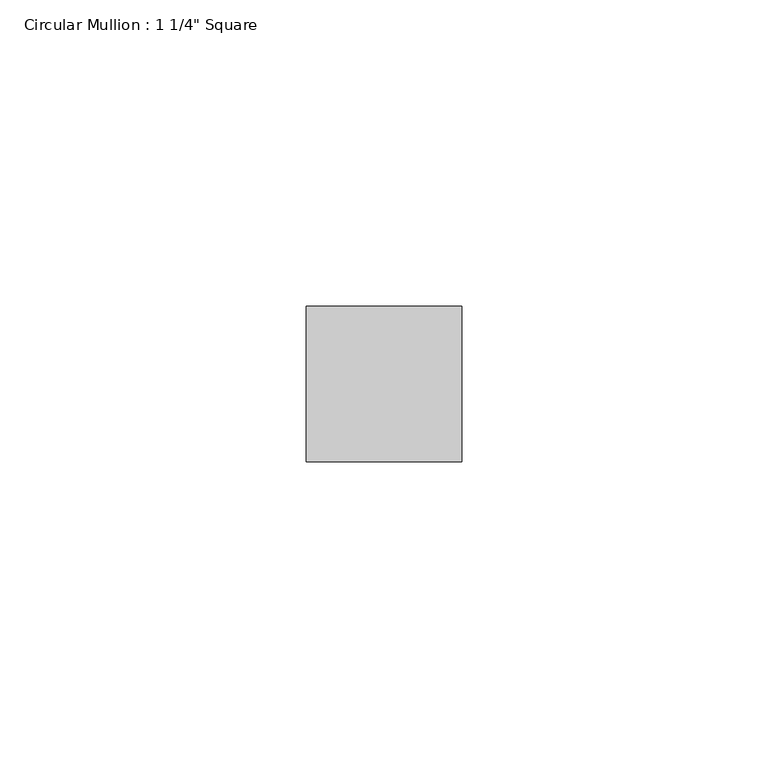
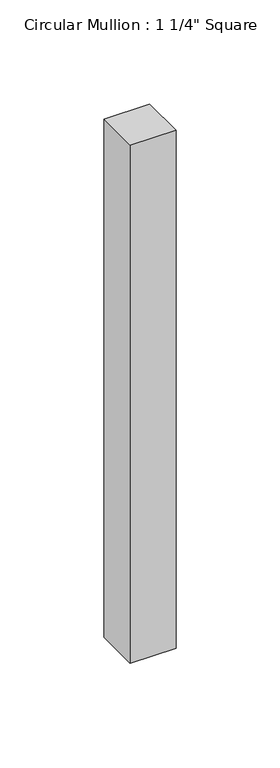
"""IFC4 building model written with IfcOpenShell, lengths in millimetres: member geometry."""

from ifc_helpers import new_model, si_unit, frame, origin, place, context, project, spatial, polyline, outline, extrude, source, transform, mapped, element, save


def member_2de5acac(model_context):
    return source(origin(), model_context, "Body", "SweptSolid", [
        extrude(outline(polyline([(12.7, 12.7), (12.7, -12.7), (-12.7, -12.7), (-12.7, 12.7), (12.7, 12.7)])), frame((0.0, 0.0, -304.3289943), z_axis=(0.0, 0.0, 1.0), x_axis=(1.0, 0.0, 0.0)), (0.0, 0.0, 1.0), 304.3289943),
    ])


if __name__ == "__main__":
    model = new_model("IFC4")
    model_context = context("Model", 3, world=origin())
    ifc_project = project(units=[si_unit("LENGTHUNIT", "METRE", prefix="MILLI")], contexts=[model_context])
    site = spatial("IfcSite", under=ifc_project)
    building = spatial("IfcBuilding", under=site)
    placement = place(None, origin())
    member_shape = member_2de5acac(model_context)
    element("IfcMember", 1, ObjectType="Circular Mullion : 1 1/4\" Square", at=placement, inside=building, context=model_context, shape_type="MappedRepresentation", body=[
        mapped(member_shape, transform((0.0, 0.0, 0.0), x_axis=(1.0, 0.0, 0.0), y_axis=(0.0, 1.0, 0.0), z_axis=(0.0, 0.0, 1.0))),
    ])
    save(model, "model.ifc")
